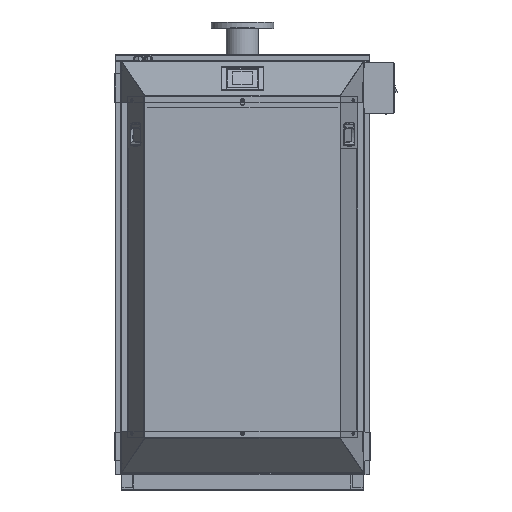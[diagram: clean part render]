
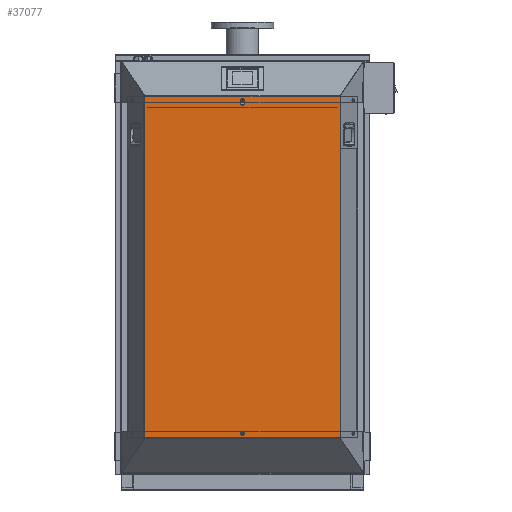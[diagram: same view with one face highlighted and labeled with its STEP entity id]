
A CAD part, top view. The second image highlights one B-rep face of the part: STEP entity #37077.
In plain terms, the highlighted planar face has unit normal (0, 0, 1).
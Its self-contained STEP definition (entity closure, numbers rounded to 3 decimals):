
#219 = AXIS2_PLACEMENT_3D ( 'NONE', #3195, #29534, #4024 ) ;
#1355 = LINE ( 'NONE', #40157, #25069 ) ;
#1435 = EDGE_CURVE ( 'NONE', #20837, #1445, #15484, .T. ) ;
#1445 = VERTEX_POINT ( 'NONE', #29101 ) ;
#2169 = CARTESIAN_POINT ( 'NONE',  ( -828.761, -851.075, 1249.733 ) ) ;
#2344 = ORIENTED_EDGE ( 'NONE', *, *, #1435, .T. ) ;
#2906 = VERTEX_POINT ( 'NONE', #5325 ) ;
#3195 = CARTESIAN_POINT ( 'NONE',  ( -1169.011, -851.075, 1249.733 ) ) ;
#3369 = VECTOR ( 'NONE', #13293, 1000. ) ;
#3772 = LINE ( 'NONE', #38340, #50809 ) ;
#4024 = DIRECTION ( 'NONE',  ( 1., 0., 0. ) ) ;
#4086 = VERTEX_POINT ( 'NONE', #21349 ) ;
#4662 = AXIS2_PLACEMENT_3D ( 'NONE', #49952, #49674, #14768 ) ;
#5325 = CARTESIAN_POINT ( 'NONE',  ( -820.761, 326.354, 1249.733 ) ) ;
#7201 = ORIENTED_EDGE ( 'NONE', *, *, #27842, .F. ) ;
#7298 = CIRCLE ( 'NONE', #39865, 4. ) ;
#7852 = CARTESIAN_POINT ( 'NONE',  ( -1160.311, -851.075, 1249.733 ) ) ;
#8267 = EDGE_CURVE ( 'NONE', #29836, #2906, #53108, .T. ) ;
#9255 = DIRECTION ( 'NONE',  ( 0., 1., 0. ) ) ;
#9941 = CARTESIAN_POINT ( 'NONE',  ( -820.761, 329.425, 1249.733 ) ) ;
#10883 = EDGE_CURVE ( 'NONE', #17436, #41459, #13005, .T. ) ;
#11853 = ORIENTED_EDGE ( 'NONE', *, *, #48381, .T. ) ;
#11885 = ORIENTED_EDGE ( 'NONE', *, *, #10883, .T. ) ;
#11947 = LINE ( 'NONE', #21284, #28285 ) ;
#12500 = DIRECTION ( 'NONE',  ( 0., -1., 0. ) ) ;
#13005 = LINE ( 'NONE', #38819, #3369 ) ;
#13293 = DIRECTION ( 'NONE',  ( 1., 0., 0. ) ) ;
#13810 = VERTEX_POINT ( 'NONE', #43364 ) ;
#14609 = DIRECTION ( 'NONE',  ( -1., 0., 0. ) ) ;
#14768 = DIRECTION ( 'NONE',  ( 1., 0., 0. ) ) ;
#15484 = LINE ( 'NONE', #15765, #16349 ) ;
#15602 = CARTESIAN_POINT ( 'NONE',  ( -1169.011, -851.075, 1249.733 ) ) ;
#15683 = CARTESIAN_POINT ( 'NONE',  ( -824.761, 319.425, 1249.733 ) ) ;
#15765 = CARTESIAN_POINT ( 'NONE',  ( -489.211, 343.925, 1249.733 ) ) ;
#16349 = VECTOR ( 'NONE', #25118, 1000. ) ;
#16588 = ORIENTED_EDGE ( 'NONE', *, *, #34504, .T. ) ;
#17436 = VERTEX_POINT ( 'NONE', #21725 ) ;
#18296 = EDGE_CURVE ( 'NONE', #41459, #48917, #3772, .T. ) ;
#19856 = LINE ( 'NONE', #15602, #52410 ) ;
#19863 = ORIENTED_EDGE ( 'NONE', *, *, #23337, .F. ) ;
#20618 = VERTEX_POINT ( 'NONE', #9941 ) ;
#20837 = VERTEX_POINT ( 'NONE', #52024 ) ;
#20927 = CIRCLE ( 'NONE', #4662, 4. ) ;
#21284 = CARTESIAN_POINT ( 'NONE',  ( -1168.941, 343.925, 1249.733 ) ) ;
#21349 = CARTESIAN_POINT ( 'NONE',  ( -820.761, -836.575, 1249.733 ) ) ;
#21725 = CARTESIAN_POINT ( 'NONE',  ( -1168.941, -851.075, 1249.733 ) ) ;
#23337 = EDGE_CURVE ( 'NONE', #2906, #20618, #27660, .T. ) ;
#24217 = EDGE_CURVE ( 'NONE', #31336, #43253, #1355, .T. ) ;
#24473 = EDGE_LOOP ( 'NONE', ( #7201, #19863, #53809, #30277 ) ) ;
#24754 = ORIENTED_EDGE ( 'NONE', *, *, #32668, .T. ) ;
#25069 = VECTOR ( 'NONE', #9255, 1000. ) ;
#25118 = DIRECTION ( 'NONE',  ( -1., 0., 0. ) ) ;
#27387 = ORIENTED_EDGE ( 'NONE', *, *, #37093, .T. ) ;
#27660 = LINE ( 'NONE', #44972, #30423 ) ;
#27825 = CARTESIAN_POINT ( 'NONE',  ( -480.581, -851.075, 1249.733 ) ) ;
#27842 = EDGE_CURVE ( 'NONE', #20618, #52271, #7298, .T. ) ;
#27906 = DIRECTION ( 'NONE',  ( 1., 0., 0. ) ) ;
#28285 = VECTOR ( 'NONE', #12500, 1000. ) ;
#28464 = DIRECTION ( 'NONE',  ( 0., 0., 1. ) ) ;
#28532 = VECTOR ( 'NONE', #14609, 1000. ) ;
#28635 = AXIS2_PLACEMENT_3D ( 'NONE', #15683, #28464, #27906 ) ;
#28664 = DIRECTION ( 'NONE',  ( 1., 0., 0. ) ) ;
#28778 = DIRECTION ( 'NONE',  ( 0., -1., 0. ) ) ;
#29101 = CARTESIAN_POINT ( 'NONE',  ( -1160.311, 343.925, 1249.733 ) ) ;
#29534 = DIRECTION ( 'NONE',  ( 0., 0., 1. ) ) ;
#29564 = EDGE_LOOP ( 'NONE', ( #16588 ) ) ;
#29717 = ORIENTED_EDGE ( 'NONE', *, *, #33545, .T. ) ;
#29805 = FACE_BOUND ( 'NONE', #24473, .T. ) ;
#29836 = VERTEX_POINT ( 'NONE', #31858 ) ;
#30277 = ORIENTED_EDGE ( 'NONE', *, *, #51928, .F. ) ;
#30423 = VECTOR ( 'NONE', #35630, 1000. ) ;
#30797 = LINE ( 'NONE', #48949, #28532 ) ;
#31336 = VERTEX_POINT ( 'NONE', #27825 ) ;
#31858 = CARTESIAN_POINT ( 'NONE',  ( -828.761, 326.354, 1249.733 ) ) ;
#32608 = VECTOR ( 'NONE', #28778, 1000. ) ;
#32668 = EDGE_CURVE ( 'NONE', #1445, #13810, #36470, .T. ) ;
#32772 = CARTESIAN_POINT ( 'NONE',  ( -1169.011, 343.925, 1249.733 ) ) ;
#33515 = CARTESIAN_POINT ( 'NONE',  ( -489.211, -851.075, 1249.733 ) ) ;
#33545 = EDGE_CURVE ( 'NONE', #48917, #31336, #19856, .T. ) ;
#33798 = VECTOR ( 'NONE', #50075, 1000. ) ;
#34504 = EDGE_CURVE ( 'NONE', #4086, #4086, #20927, .T. ) ;
#34984 = DIRECTION ( 'NONE',  ( 0., 0., 1. ) ) ;
#35630 = DIRECTION ( 'NONE',  ( 0., 1., 0. ) ) ;
#36470 = LINE ( 'NONE', #32772, #33798 ) ;
#37077 = ADVANCED_FACE ( 'NONE', ( #42855, #38591, #29805 ), #38864, .T. ) ;
#37093 = EDGE_CURVE ( 'NONE', #13810, #17436, #11947, .T. ) ;
#38340 = CARTESIAN_POINT ( 'NONE',  ( -1160.311, -851.075, 1249.733 ) ) ;
#38591 = FACE_OUTER_BOUND ( 'NONE', #53069, .T. ) ;
#38819 = CARTESIAN_POINT ( 'NONE',  ( -1169.011, -851.075, 1249.733 ) ) ;
#38864 = PLANE ( 'NONE',  #219 ) ;
#39225 = CARTESIAN_POINT ( 'NONE',  ( -824.761, 329.425, 1249.733 ) ) ;
#39653 = CARTESIAN_POINT ( 'NONE',  ( -480.581, 343.925, 1249.733 ) ) ;
#39865 = AXIS2_PLACEMENT_3D ( 'NONE', #39225, #34984, #52292 ) ;
#40157 = CARTESIAN_POINT ( 'NONE',  ( -480.581, -851.075, 1249.733 ) ) ;
#40979 = LINE ( 'NONE', #2169, #32608 ) ;
#40993 = CARTESIAN_POINT ( 'NONE',  ( -828.761, 329.425, 1249.733 ) ) ;
#41459 = VERTEX_POINT ( 'NONE', #7852 ) ;
#42855 = FACE_BOUND ( 'NONE', #29564, .T. ) ;
#43253 = VERTEX_POINT ( 'NONE', #39653 ) ;
#43364 = CARTESIAN_POINT ( 'NONE',  ( -1168.941, 343.925, 1249.733 ) ) ;
#44972 = CARTESIAN_POINT ( 'NONE',  ( -820.761, -851.075, 1249.733 ) ) ;
#45916 = ORIENTED_EDGE ( 'NONE', *, *, #24217, .T. ) ;
#47710 = ORIENTED_EDGE ( 'NONE', *, *, #18296, .T. ) ;
#48381 = EDGE_CURVE ( 'NONE', #43253, #20837, #30797, .T. ) ;
#48917 = VERTEX_POINT ( 'NONE', #33515 ) ;
#48949 = CARTESIAN_POINT ( 'NONE',  ( -1169.011, 343.925, 1249.733 ) ) ;
#49674 = DIRECTION ( 'NONE',  ( 0., 0., -1. ) ) ;
#49952 = CARTESIAN_POINT ( 'NONE',  ( -824.761, -836.575, 1249.733 ) ) ;
#50075 = DIRECTION ( 'NONE',  ( -1., 0., 0. ) ) ;
#50809 = VECTOR ( 'NONE', #55661, 1000. ) ;
#51928 = EDGE_CURVE ( 'NONE', #52271, #29836, #40979, .T. ) ;
#52024 = CARTESIAN_POINT ( 'NONE',  ( -489.211, 343.925, 1249.733 ) ) ;
#52271 = VERTEX_POINT ( 'NONE', #40993 ) ;
#52292 = DIRECTION ( 'NONE',  ( 1., 0., 0. ) ) ;
#52410 = VECTOR ( 'NONE', #28664, 1000. ) ;
#53069 = EDGE_LOOP ( 'NONE', ( #11853, #2344, #24754, #27387, #11885, #47710, #29717, #45916 ) ) ;
#53108 = CIRCLE ( 'NONE', #28635, 8. ) ;
#53809 = ORIENTED_EDGE ( 'NONE', *, *, #8267, .F. ) ;
#55661 = DIRECTION ( 'NONE',  ( 1., 0., 0. ) ) ;
